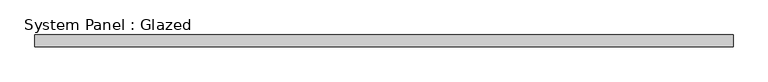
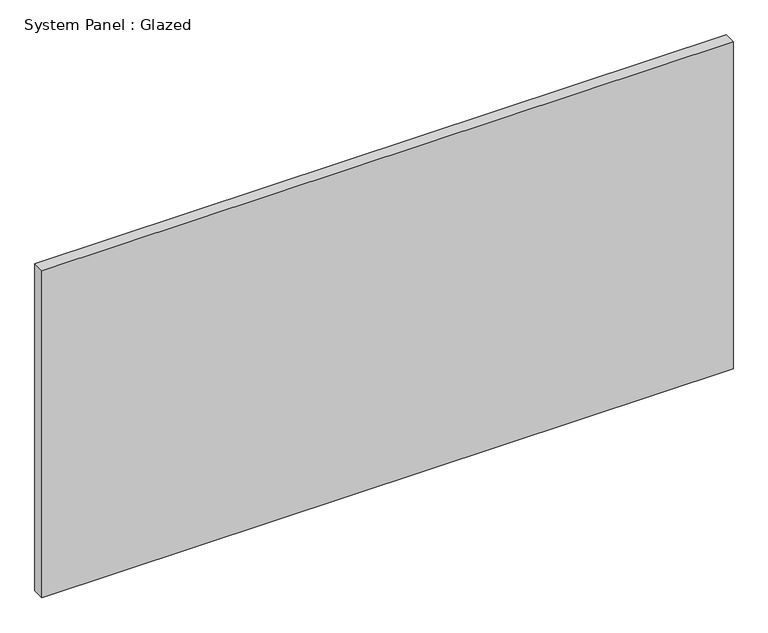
"""IFC4 building model written with IfcOpenShell, lengths in millimetres: plate geometry, System Panel : Glazed."""

from ifc_helpers import new_model, si_unit, origin, origin_with_axes, place, context, project, spatial, polyline, outline, extrude, source, transform, mapped, element, save


def system_panel_glazed_8ef16246(model_context):
    return source(origin(), model_context, "Body", "SweptSolid", [
        extrude(outline(polyline([(995.0, -17.0), (-995.0, -17.0), (-995.0, 17.0), (995.0, 17.0), (995.0, -17.0)])), origin_with_axes(), (0.0, 0.0, 1.0), 995.0004903),
    ])


if __name__ == "__main__":
    model = new_model("IFC4")
    model_context = context("Model", 3, world=origin())
    ifc_project = project(units=[si_unit("LENGTHUNIT", "METRE", prefix="MILLI")], contexts=[model_context])
    site = spatial("IfcSite", under=ifc_project)
    building = spatial("IfcBuilding", under=site)
    placement = place(None, origin())
    system_panel_glazed_shape = system_panel_glazed_8ef16246(model_context)
    element("IfcPlate", 1, ObjectType="System Panel : Glazed", at=placement, inside=building, context=model_context, shape_type="MappedRepresentation", body=[
        mapped(system_panel_glazed_shape, transform((0.0, 0.0, 0.0), x_axis=(1.0, 0.0, 0.0), y_axis=(0.0, 1.0, 0.0), z_axis=(0.0, 0.0, 1.0))),
    ])
    save(model, "model.ifc")
